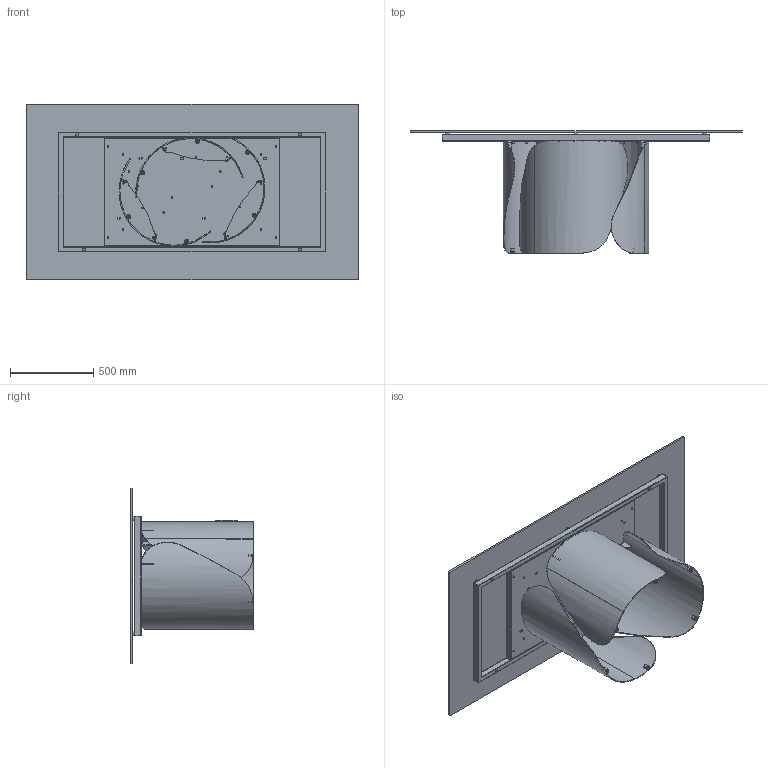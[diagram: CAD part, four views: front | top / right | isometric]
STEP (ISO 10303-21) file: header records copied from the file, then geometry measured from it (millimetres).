
FILE_DESCRIPTION (( 'STEP AP203' ), '1' );
FILE_NAME ('ON21G.STEP', '2024-08-06T13:50:21', ( '' ), ( '' ), 'SwSTEP 2.0', 'SolidWorks 2022', '' );
FILE_SCHEMA (( 'CONFIG_CONTROL_DESIGN' ));
Length unit declared in the file: millimetre
Products named in the file (15): OND000000_02-00-CILINDRO DI FISSAGGIO Ø25X17 M8; TTAV0601_01-00-STRUTTURA X TAVOLI PLAI ONDA NOA 240; TTAV0601_02-00-VASSOIO TAVOLI PLAI ONDA NOA 240; ON21G; COLLO BASE ONDA SINGOLA CON FERRAMENTA; C2XCRXX-00-Piani Rettangolari Cristallo_21 2000x1060; TTAV0601-00-TELAIO X TAVOLI PLAI ONDA NOA 240cm_TTAV06; rondella M8_8X24; PIEDINO PER ONDA; 434070-00-PIEDINO TPV GOMMA NERO D. 30x8max18_filo estetico; M8xXXmm_M8x20mm; OND000000_01-00-PIASTRA SUPERIORE BASE ONDA; OND000000_03-00-LAMIERA CURVATA PRINCIPALE_OND00000X-00-ONDA BASE GREZZA PROTOTIPO; COLLO TELAIO UNIVERSALE TTAV0601 CON FERRAMENTA_FERRAMENTA MTG TOP CRISTALLO VERNICIATO-CERAMICA; OND000000-03-ONDA BASE GREZZA
Assembly tree (45 placements, depth 4):
  ON21G
    COLLO TELAIO UNIVERSALE TTAV0601 CON FERRAMENTA_FERRAMENTA MTG TOP CRISTALLO VERNICIATO-CERAMICA
      TTAV0601-00-TELAIO X TAVOLI PLAI ONDA NOA 240cm_TTAV06
        TTAV0601_02-00-VASSOIO TAVOLI PLAI ONDA NOA 240
        TTAV0601_01-00-STRUTTURA X TAVOLI PLAI ONDA NOA 240
      434070-00-PIEDINO TPV GOMMA NERO D. 30x8max18_filo estetico  x6
    COLLO BASE ONDA SINGOLA CON FERRAMENTA  x3
      OND000000-03-ONDA BASE GREZZA
        OND000000_03-00-LAMIERA CURVATA PRINCIPALE_OND00000X-00-ONDA BASE GREZZA PROTOTIPO
        OND000000_01-00-PIASTRA SUPERIORE BASE ONDA
        OND000000_02-00-CILINDRO DI FISSAGGIO Ø25X17 M8  x2
      PIEDINO PER ONDA
    rondella M8_8X24  x12
    M8xXXmm_M8x20mm  x12
    C2XCRXX-00-Piani Rettangolari Cristallo_21 2000x1060
Bounding box: 2000 x 738 x 1060 mm (x, y, z)
Volume: 38356817.7 mm3; surface area: 10606886.2 mm2
Topology: 63 solids, 63 shells, 1551 faces, 3509 edges, 2114 vertices
Faces by surface type: plane 582, cylinder 497, cone 212, torus 192, bspline 60, sphere 8
Entity records: 21333 total; most frequent: CARTESIAN_POINT 4824, DIRECTION 3068, ORIENTED_EDGE 2818, EDGE_CURVE 1409, AXIS2_PLACEMENT_3D 1148, VERTEX_POINT 862, VECTOR 772, LINE 772
